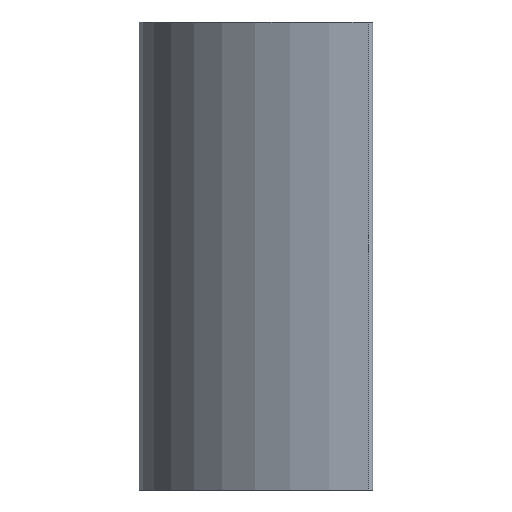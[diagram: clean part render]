
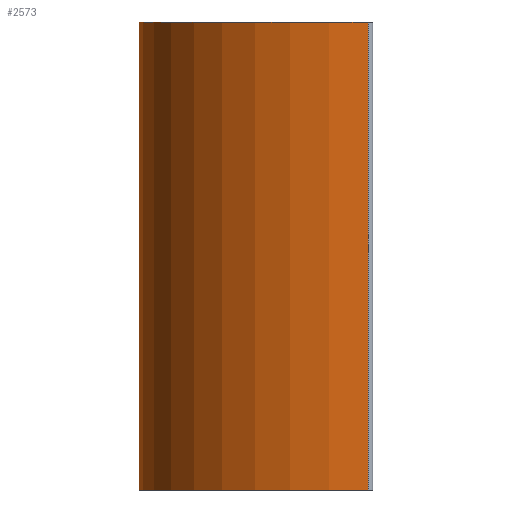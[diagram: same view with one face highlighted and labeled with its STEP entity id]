
A CAD part, left-side view. The second image highlights one B-rep face of the part: STEP entity #2573.
In plain terms, the highlighted cylindrical face has radius 50 mm (diameter 100 mm), a partial arc.
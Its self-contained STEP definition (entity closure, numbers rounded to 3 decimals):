
#212 = CARTESIAN_POINT ( 'NONE',  ( 23.98, 24.99, 0. ) ) ;
#239 = AXIS2_PLACEMENT_3D ( 'NONE', #1695, #548, #1464 ) ;
#391 = CARTESIAN_POINT ( 'NONE',  ( 23.98, 24.99, -100. ) ) ;
#400 = VERTEX_POINT ( 'NONE', #2060 ) ;
#452 = DIRECTION ( 'NONE',  ( 1., 0., 0. ) ) ;
#548 = DIRECTION ( 'NONE',  ( 0., 0., 1. ) ) ;
#640 = EDGE_CURVE ( 'NONE', #400, #1044, #1629, .T. ) ;
#658 = EDGE_CURVE ( 'NONE', #2209, #400, #2962, .T. ) ;
#712 = DIRECTION ( 'NONE',  ( 1., 0., 0. ) ) ;
#727 = CARTESIAN_POINT ( 'NONE',  ( 25., -25., -100. ) ) ;
#787 = EDGE_CURVE ( 'NONE', #874, #1044, #2916, .T. ) ;
#874 = VERTEX_POINT ( 'NONE', #212 ) ;
#933 = CYLINDRICAL_SURFACE ( 'NONE', #2859, 50. ) ;
#942 = CARTESIAN_POINT ( 'NONE',  ( -24.99, -23.98, -100. ) ) ;
#946 = DIRECTION ( 'NONE',  ( 0., 0., 1. ) ) ;
#1044 = VERTEX_POINT ( 'NONE', #2349 ) ;
#1167 = DIRECTION ( 'NONE',  ( 0., 0., 1. ) ) ;
#1174 = CARTESIAN_POINT ( 'NONE',  ( 23.98, 24.99, -100. ) ) ;
#1361 = EDGE_CURVE ( 'NONE', #2209, #874, #2463, .T. ) ;
#1405 = DIRECTION ( 'NONE',  ( 0., 0., 1. ) ) ;
#1464 = DIRECTION ( 'NONE',  ( 1., 0., 0. ) ) ;
#1469 = VECTOR ( 'NONE', #2005, 1000. ) ;
#1586 = AXIS2_PLACEMENT_3D ( 'NONE', #727, #1167, #712 ) ;
#1629 = LINE ( 'NONE', #942, #2167 ) ;
#1695 = CARTESIAN_POINT ( 'NONE',  ( 25., -25., 0. ) ) ;
#1872 = ORIENTED_EDGE ( 'NONE', *, *, #1361, .F. ) ;
#1876 = CARTESIAN_POINT ( 'NONE',  ( 25., -25., -100. ) ) ;
#1889 = FACE_OUTER_BOUND ( 'NONE', #1966, .T. ) ;
#1966 = EDGE_LOOP ( 'NONE', ( #2906, #1872, #2497, #2787 ) ) ;
#2005 = DIRECTION ( 'NONE',  ( 0., 0., 1. ) ) ;
#2060 = CARTESIAN_POINT ( 'NONE',  ( -24.99, -23.98, -100. ) ) ;
#2167 = VECTOR ( 'NONE', #1405, 1000. ) ;
#2209 = VERTEX_POINT ( 'NONE', #1174 ) ;
#2349 = CARTESIAN_POINT ( 'NONE',  ( -24.99, -23.98, 0. ) ) ;
#2463 = LINE ( 'NONE', #391, #1469 ) ;
#2497 = ORIENTED_EDGE ( 'NONE', *, *, #658, .T. ) ;
#2573 = ADVANCED_FACE ( 'NONE', ( #1889 ), #933, .T. ) ;
#2787 = ORIENTED_EDGE ( 'NONE', *, *, #640, .T. ) ;
#2859 = AXIS2_PLACEMENT_3D ( 'NONE', #1876, #946, #452 ) ;
#2906 = ORIENTED_EDGE ( 'NONE', *, *, #787, .F. ) ;
#2916 = CIRCLE ( 'NONE', #239, 50. ) ;
#2962 = CIRCLE ( 'NONE', #1586, 50. ) ;
